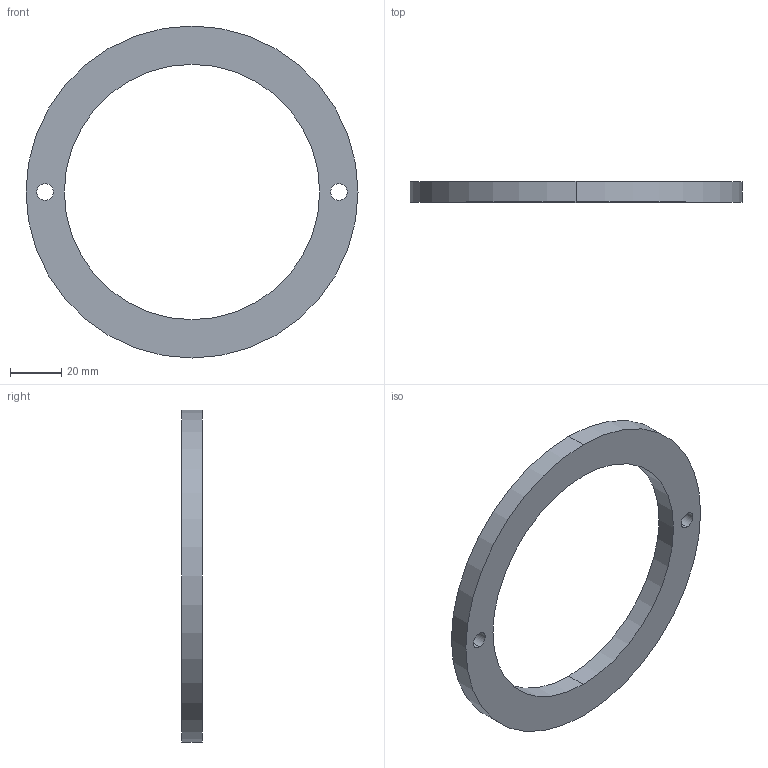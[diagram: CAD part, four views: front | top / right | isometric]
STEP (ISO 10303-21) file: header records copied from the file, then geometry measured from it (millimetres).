
FILE_DESCRIPTION (( 'STEP AP214' ), '1' );
FILE_NAME ('BRDCO-130.STEP', '2020-02-05T09:09:46', ( 'August' ), ( '' ), 'SwSTEP 2.0', 'SolidWorks 2018', '' );
FILE_SCHEMA (( 'AUTOMOTIVE_DESIGN' ));
Length unit declared in the file: millimetre
Products named in the file (1): BRDCO-130
Bounding box: 130 x 8 x 130 mm (x, y, z)
Volume: 42823 mm3; surface area: 16813 mm2
Topology: 1 solids, 1 shells, 10 faces, 24 edges, 16 vertices
Faces by surface type: cylinder 8, plane 2
Entity records: 350 total; most frequent: DIRECTION 62, CARTESIAN_POINT 51, ORIENTED_EDGE 48, AXIS2_PLACEMENT_3D 27, EDGE_CURVE 24, EDGE_LOOP 16, CIRCLE 16, VERTEX_POINT 16
